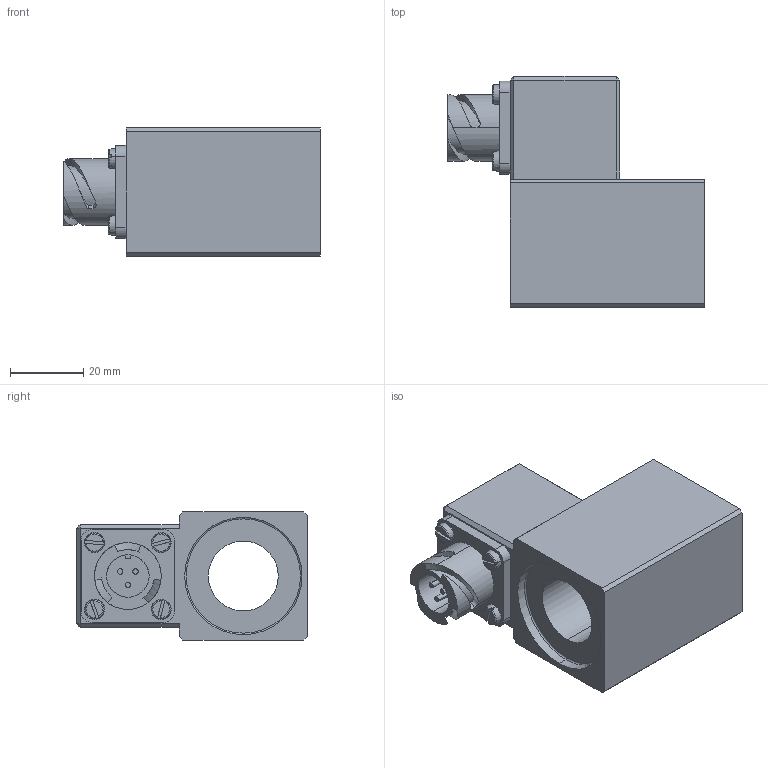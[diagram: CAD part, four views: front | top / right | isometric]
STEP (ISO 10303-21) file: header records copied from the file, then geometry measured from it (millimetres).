
FILE_DESCRIPTION (( 'STEP AP214' ), '1' );
FILE_NAME ('NBS35_19x50-DC.STEP', '2015-07-28T13:21:42', ( '' ), ( '' ), 'SwSTEP 2.0', 'SolidWorks 2014', '' );
FILE_SCHEMA (( 'AUTOMOTIVE_DESIGN' ));
Length unit declared in the file: millimetre
Products named in the file (2): NBS35_19x50-DC
Bounding box: 70 x 63 x 35 mm (x, y, z)
Volume: 74634.2 mm3; surface area: 20501.4 mm2
Topology: 5 solids, 10 shells, 310 faces, 759 edges, 477 vertices
Faces by surface type: plane 138, cylinder 91, cone 36, torus 30, bspline 15
Entity records: 13250 total; most frequent: CARTESIAN_POINT 2630, DIRECTION 1519, ORIENTED_EDGE 1494, EDGE_CURVE 747, AXIS2_PLACEMENT_3D 598, VERTEX_POINT 477, EDGE_LOOP 348, VECTOR 323
